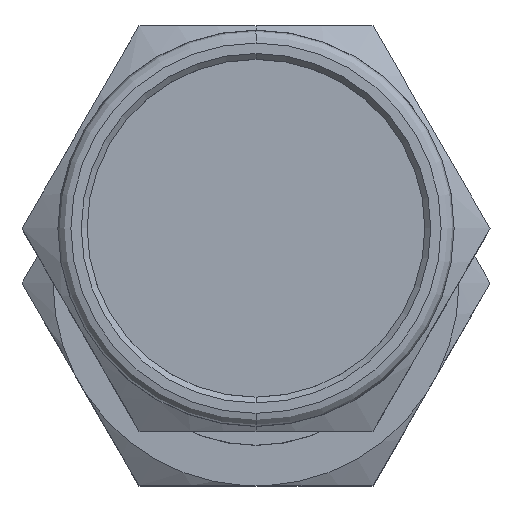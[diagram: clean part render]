
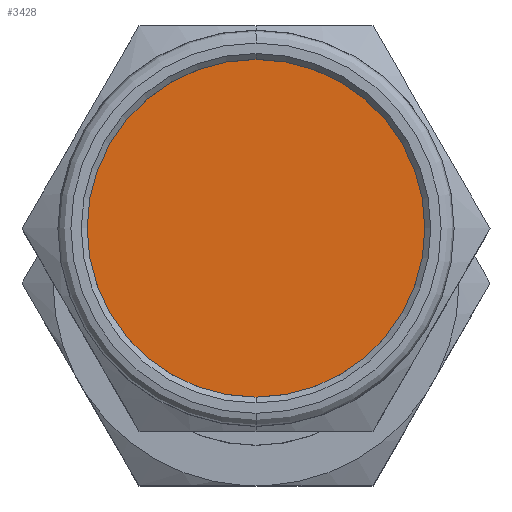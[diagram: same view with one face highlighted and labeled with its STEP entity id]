
A CAD part, top view. The second image highlights one B-rep face of the part: STEP entity #3428.
In plain terms, the highlighted planar face has unit normal (0, 0, 1).
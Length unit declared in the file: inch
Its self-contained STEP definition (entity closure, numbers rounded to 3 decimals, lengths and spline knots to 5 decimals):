
#18 = VERTEX_POINT ( 'NONE', #393 ) ;
#318 = DIRECTION ( 'NONE',  ( 0., 1., 0. ) ) ;
#393 = CARTESIAN_POINT ( 'NONE',  ( 0., -0.13, 0.31412 ) ) ;
#417 = CIRCLE ( 'NONE', #2017, 0.13 ) ;
#550 = EDGE_CURVE ( 'NONE', #18, #3476, #417, .T. ) ;
#569 = AXIS2_PLACEMENT_3D ( 'NONE', #3448, #1469, #605 ) ;
#605 = DIRECTION ( 'NONE',  ( 0., 1., 0. ) ) ;
#656 = FACE_OUTER_BOUND ( 'NONE', #784, .T. ) ;
#674 = EDGE_CURVE ( 'NONE', #3476, #18, #1989, .T. ) ;
#784 = EDGE_LOOP ( 'NONE', ( #3242, #2500 ) ) ;
#1153 = CARTESIAN_POINT ( 'NONE',  ( 0., 0., 0.31412 ) ) ;
#1165 = DIRECTION ( 'NONE',  ( 0., 0., -1. ) ) ;
#1437 = AXIS2_PLACEMENT_3D ( 'NONE', #2445, #2434, #3583 ) ;
#1469 = DIRECTION ( 'NONE',  ( 0., 0., -1. ) ) ;
#1989 = CIRCLE ( 'NONE', #1437, 0.13 ) ;
#2017 = AXIS2_PLACEMENT_3D ( 'NONE', #1153, #1165, #318 ) ;
#2434 = DIRECTION ( 'NONE',  ( 0., 0., -1. ) ) ;
#2445 = CARTESIAN_POINT ( 'NONE',  ( 0., 0., 0.31412 ) ) ;
#2500 = ORIENTED_EDGE ( 'NONE', *, *, #550, .F. ) ;
#3173 = PLANE ( 'NONE',  #569 ) ;
#3242 = ORIENTED_EDGE ( 'NONE', *, *, #674, .F. ) ;
#3428 = ADVANCED_FACE ( 'NONE', ( #656 ), #3173, .F. ) ;
#3448 = CARTESIAN_POINT ( 'NONE',  ( 0., 0., 0.31412 ) ) ;
#3470 = CARTESIAN_POINT ( 'NONE',  ( 0., 0.13, 0.31412 ) ) ;
#3476 = VERTEX_POINT ( 'NONE', #3470 ) ;
#3583 = DIRECTION ( 'NONE',  ( 0., 1., 0. ) ) ;
